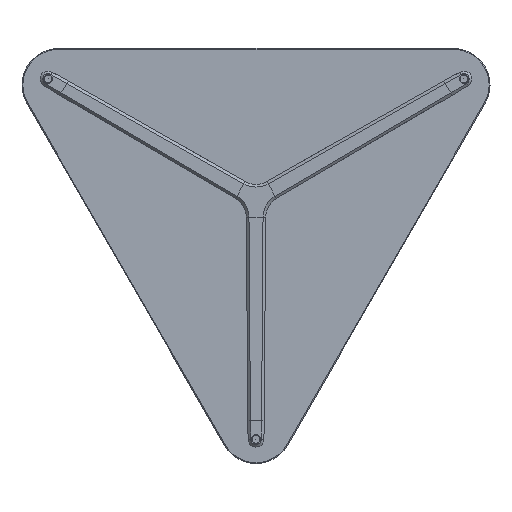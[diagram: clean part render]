
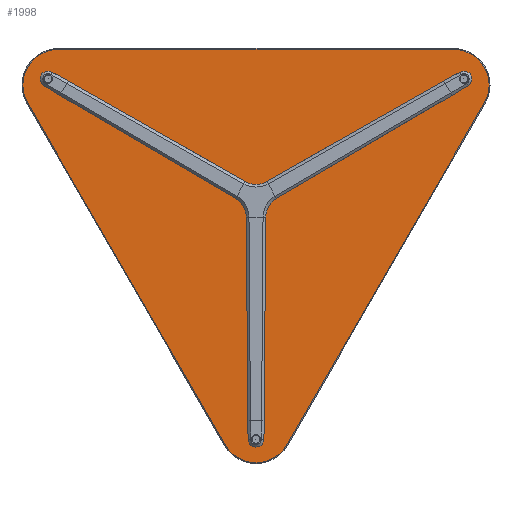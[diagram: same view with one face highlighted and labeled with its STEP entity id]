
A CAD part, front view. The second image highlights one B-rep face of the part: STEP entity #1998.
In plain terms, the highlighted planar face has unit normal (0, -1, 0).
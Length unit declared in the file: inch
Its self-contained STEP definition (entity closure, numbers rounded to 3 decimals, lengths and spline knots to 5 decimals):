
#343=PLANE('',#2445);
#458=FACE_OUTER_BOUND('',#594,.T.);
#594=EDGE_LOOP('',(#1791,#1792,#1793,#1794,#1795,#1796));
#706=LINE('',#3980,#838);
#710=LINE('',#3992,#842);
#714=LINE('',#4004,#846);
#838=VECTOR('',#2992,0.3937);
#842=VECTOR('',#3004,0.3937);
#846=VECTOR('',#3016,0.3937);
#954=CIRCLE('',#2432,2.53558);
#956=CIRCLE('',#2436,2.53558);
#958=CIRCLE('',#2440,2.53558);
#1090=VERTEX_POINT('',#3973);
#1093=VERTEX_POINT('',#3978);
#1094=VERTEX_POINT('',#3982);
#1096=VERTEX_POINT('',#3988);
#1098=VERTEX_POINT('',#3994);
#1100=VERTEX_POINT('',#4000);
#1318=EDGE_CURVE('',#1093,#1090,#706,.T.);
#1321=EDGE_CURVE('',#1090,#1094,#954,.T.);
#1324=EDGE_CURVE('',#1094,#1096,#710,.T.);
#1327=EDGE_CURVE('',#1096,#1098,#956,.T.);
#1330=EDGE_CURVE('',#1098,#1100,#714,.T.);
#1332=EDGE_CURVE('',#1100,#1093,#958,.T.);
#1791=ORIENTED_EDGE('',*,*,#1318,.F.);
#1792=ORIENTED_EDGE('',*,*,#1332,.F.);
#1793=ORIENTED_EDGE('',*,*,#1330,.F.);
#1794=ORIENTED_EDGE('',*,*,#1327,.F.);
#1795=ORIENTED_EDGE('',*,*,#1324,.F.);
#1796=ORIENTED_EDGE('',*,*,#1321,.F.);
#1998=ADVANCED_FACE('',(#458),#343,.F.);
#2432=AXIS2_PLACEMENT_3D('',#3986,#2998,#2999);
#2436=AXIS2_PLACEMENT_3D('',#3998,#3010,#3011);
#2440=AXIS2_PLACEMENT_3D('',#4007,#3021,#3022);
#2445=AXIS2_PLACEMENT_3D('',#4022,#3037,#3038);
#2992=DIRECTION('',(-0.5,0.,0.866));
#2998=DIRECTION('center_axis',(0.,1.,0.));
#2999=DIRECTION('ref_axis',(-0.866,0.,-0.5));
#3004=DIRECTION('',(1.,0.,0.));
#3010=DIRECTION('center_axis',(0.,1.,0.));
#3011=DIRECTION('ref_axis',(0.,0.,1.));
#3016=DIRECTION('',(-0.5,0.,-0.866));
#3021=DIRECTION('center_axis',(0.,1.,0.));
#3022=DIRECTION('ref_axis',(0.866,0.,-0.5));
#3037=DIRECTION('center_axis',(0.,1.,0.));
#3038=DIRECTION('ref_axis',(0.,0.,1.));
#3973=CARTESIAN_POINT('',(-16.22771,0.,6.83349));
#3978=CARTESIAN_POINT('',(-2.19587,0.,-17.47035));
#3980=CARTESIAN_POINT('',(-4.82684,0.,-12.91338));
#3982=CARTESIAN_POINT('',(-14.03183,0.,10.63686));
#3986=CARTESIAN_POINT('Origin',(-14.03183,0.,8.10128));
#3988=CARTESIAN_POINT('',(14.03183,0.,10.63686));
#3992=CARTESIAN_POINT('',(-7.01592,0.,10.63686));
#3994=CARTESIAN_POINT('',(16.22771,0.,6.83349));
#3998=CARTESIAN_POINT('Origin',(14.03183,0.,8.10128));
#4000=CARTESIAN_POINT('',(2.19587,0.,-17.47035));
#4004=CARTESIAN_POINT('',(11.84276,0.,-0.76146));
#4007=CARTESIAN_POINT('Origin',(0.,0.,-16.20257));
#4022=CARTESIAN_POINT('Origin',(0.,0.,-4.05064));
